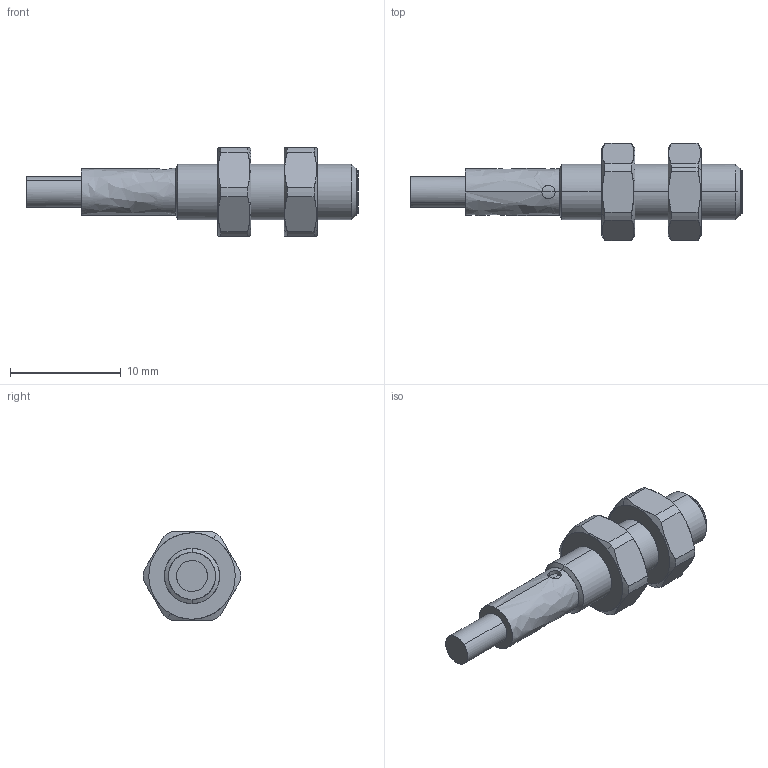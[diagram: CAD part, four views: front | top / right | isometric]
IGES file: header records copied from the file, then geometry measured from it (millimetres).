
Start section: Comment
Global section: file name: IFRM 05xxxA1_L.igs; native system:  By Spatial Corp.; preprocessor: XPlus GENERIC/IGES 3.0; author: Author; organization: Title; date: 20040805.075225; units: inch
Bounding box: 29.98 x 8.8 x 8 mm (x, y, z)
Surface area: 831.4 mm2 (no closed solid volume)
Topology: 0 solids, 0 shells, 72 faces, 344 edges, 344 vertices
Faces by surface type: bspline 72
